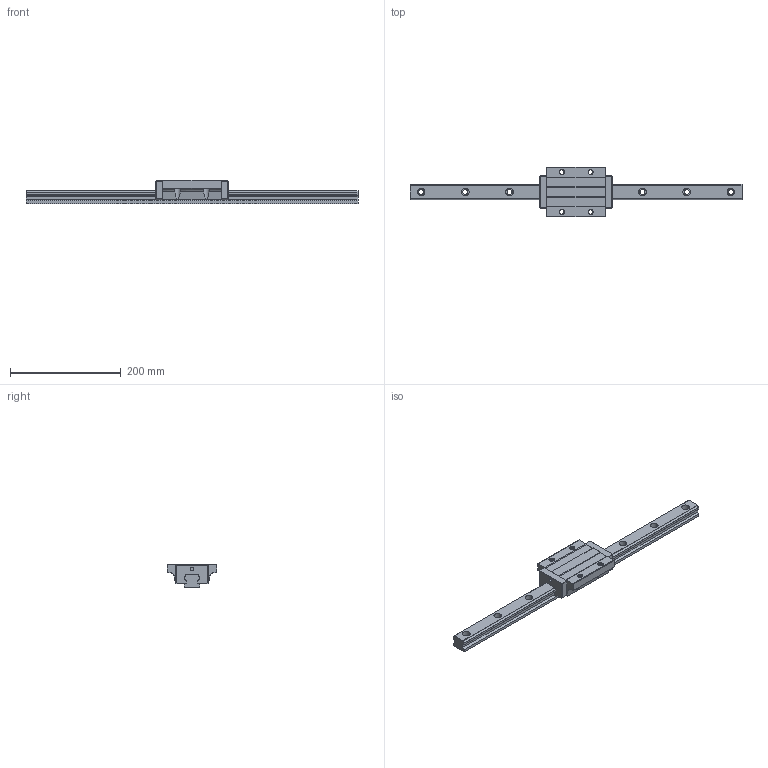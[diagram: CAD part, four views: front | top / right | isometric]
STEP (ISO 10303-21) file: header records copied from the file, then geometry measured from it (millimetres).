
FILE_DESCRIPTION (( 'STEP AP203' ), '1' );
FILE_NAME ('TRH30FE-XNC.STEP', '2024-08-16T05:50:02', ( '' ), ( '' ), 'SwSTEP 2.0', 'SolidWorks 2021', '' );
FILE_SCHEMA (( 'CONFIG_CONTROL_DESIGN' ));
Length unit declared in the file: millimetre
Products named in the file (1): TRH30FE-XNC
Bounding box: 600 x 90 x 42 mm (x, y, z)
Volume: 578121 mm3; surface area: 109343 mm2
Topology: 1 solids, 1 shells, 368 faces, 1066 edges, 704 vertices
Faces by surface type: cylinder 272, plane 84, bspline 8, sphere 4
Entity records: 18517 total; most frequent: CARTESIAN_POINT 9287, ORIENTED_EDGE 2124, DIRECTION 1614, EDGE_CURVE 1062, VERTEX_POINT 704, AXIS2_PLACEMENT_3D 565, LINE 484, VECTOR 484
